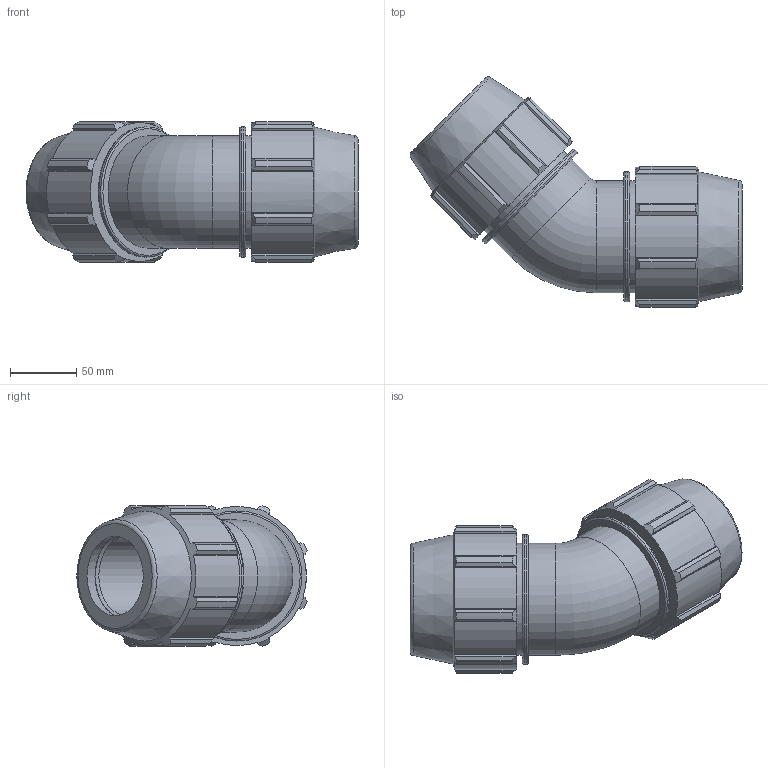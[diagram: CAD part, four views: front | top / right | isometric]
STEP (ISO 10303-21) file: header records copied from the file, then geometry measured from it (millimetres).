
FILE_DESCRIPTION(/* description */ ('PLASSON 45° ELBOW 2'''' - 2'''''),/* implementation_level */ '2;1');
FILE_NAME(/* name */ 'C:\Dropbox\KIMPROJECTS-Inventor 2019\99-16-3568-Processing Inch\ASTM Compression 2021\0706M0\0706M0020.ipt.stp',/* time_stamp */ '2021-08-26T12:32:15+03:00',/* author */ ('KIM'),/* organization */ (''),/* preprocessor_version */ 'ST-DEVELOPER v17.2',/* originating_system */ 'Autodesk Inventor 2019',/* authorisation */ '');
FILE_SCHEMA (('AUTOMOTIVE_DESIGN { 1 0 10303 214 3 1 1 }'));
Length unit declared in the file: inch
Products named in the file (1): 0706M0020
Bounding box: 250.91 x 174.04 x 106.35 mm (x, y, z)
Volume: 1106074.6 mm3; surface area: 151223.2 mm2
Topology: 1 solids, 1 shells, 146 faces, 431 edges, 295 vertices
Faces by surface type: plane 74, cylinder 40, cone 24, torus 8
Full cylindrical faces by diameter (mm): 60.1 x2, 84.772 x4, 98.336 x2
Entity records: 5103 total; most frequent: CARTESIAN_POINT 1001, ORIENTED_EDGE 862, DIRECTION 820, EDGE_CURVE 431, AXIS2_PLACEMENT_3D 306, VERTEX_POINT 295, LINE 208, VECTOR 208
